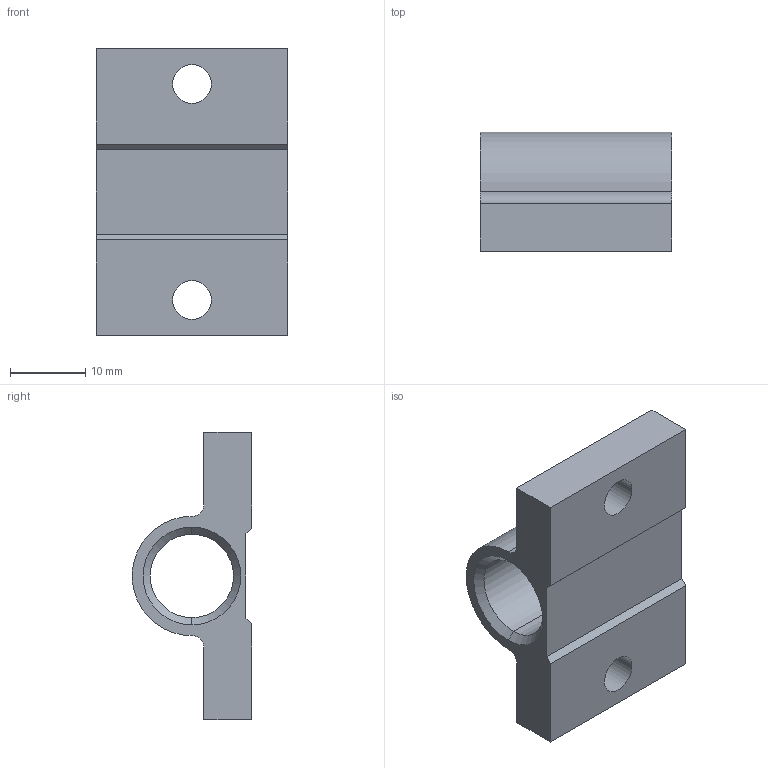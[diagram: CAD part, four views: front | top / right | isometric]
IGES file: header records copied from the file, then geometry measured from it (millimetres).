
Start section:  PTC IGES file: tf50-3d.igs
Global section: file name: tf50-3d.igs; native system: Pro/ENGINEER by Parametric Technology Corporation; preprocessor: 2002350; author: chant; organization: Unknown; date: 061026.101515; units: inch
Bounding box: 25.4 x 15.82 x 38.1 mm (x, y, z)
Surface area: 4040.8 mm2 (no closed solid volume)
Topology: 0 solids, 0 shells, 24 faces, 178 edges, 224 vertices
Faces by surface type: revolution 13, bspline 11
